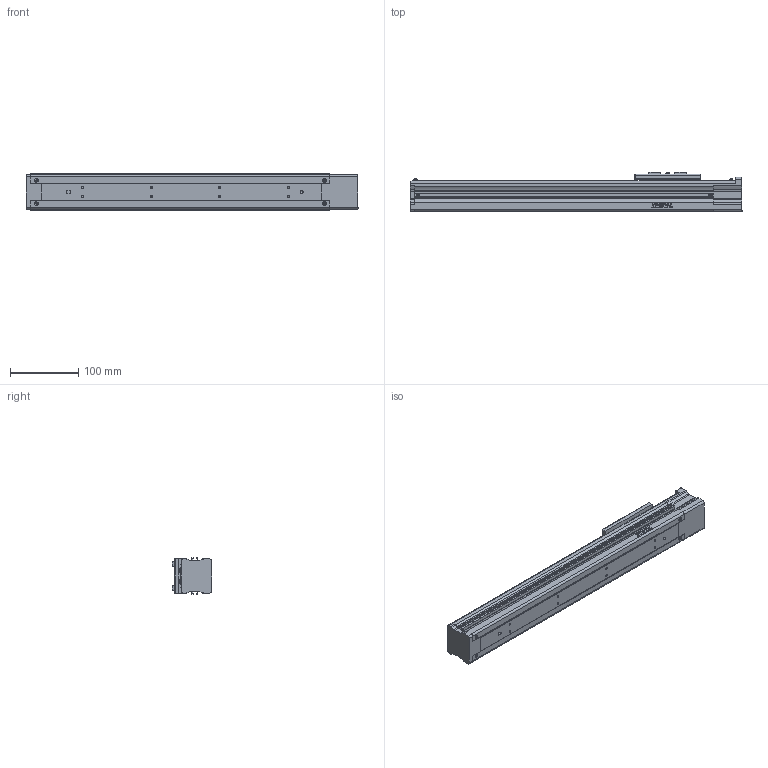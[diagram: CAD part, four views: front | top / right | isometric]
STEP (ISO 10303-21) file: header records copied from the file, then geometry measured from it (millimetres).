
FILE_DESCRIPTION(/* description */ (''),/* implementation_level */ '2;1');
FILE_NAME(/* name */ 'D:\混合母檔20191031\混和母檔\混和母檔\bin\Debug\Download\3D\KE504C-300AF0\KE504C-300AF0.stp',/* time_stamp */ '2019-11-04T13:40:19+08:00',/* author */ ('user'),/* organization */ (''),/* preprocessor_version */ 'ST-DEVELOPER v16.13',/* originating_system */ 'Autodesk Inventor 2018',/* authorisation */ '');
FILE_SCHEMA (('AUTOMOTIVE_DESIGN { 1 0 10303 214 3 1 1 }'));
Length unit declared in the file: millimetre
Products named in the file (3): KE504C-300AF0; KE50-F0-BP; KE50-SL
Assembly tree (2 placements, depth 2):
  KE504C-300AF0
    KE50-F0-BP
    KE50-SL
Bounding box: 485 x 58 x 54 mm (x, y, z)
Volume: 1059343.1 mm3; surface area: 134341.5 mm2
Topology: 2 solids, 10 shells, 943 faces, 2569 edges, 1697 vertices
Faces by surface type: plane 462, cone 155, bspline 140, cylinder 118, torus 62, sphere 6
Full cylindrical faces by diameter (mm): 2.459 x4, 2.729 x6, 3 x2, 3.242 x16, 3.5 x4, 4 x3, 5.5 x4, 6 x1, 7.9 x1, 8 x1, 26 x1, 30 x1
Entity records: 33114 total; most frequent: CARTESIAN_POINT 10181, ORIENTED_EDGE 4872, DIRECTION 4391, EDGE_CURVE 2436, VERTEX_POINT 1656, AXIS2_PLACEMENT_3D 1498, LINE 1395, VECTOR 1395
